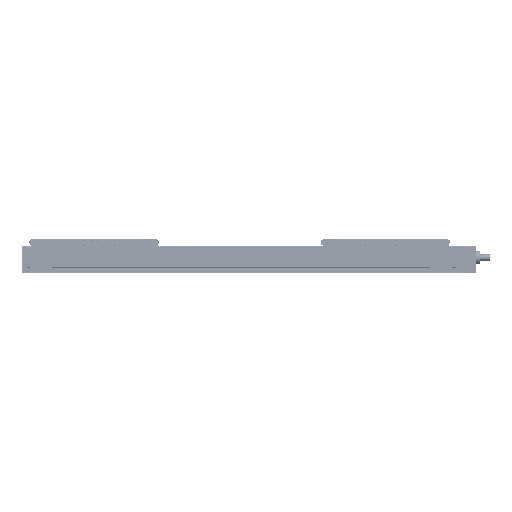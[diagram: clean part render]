
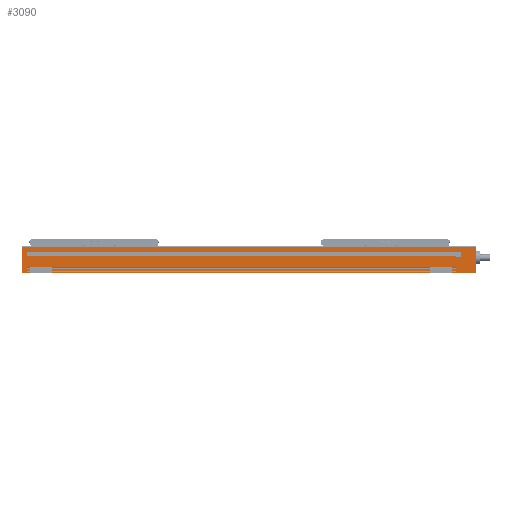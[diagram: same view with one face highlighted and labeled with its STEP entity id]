
A CAD part, left-side view. The second image highlights one B-rep face of the part: STEP entity #3090.
In plain terms, the highlighted planar face has unit normal (-1, 0, 0).
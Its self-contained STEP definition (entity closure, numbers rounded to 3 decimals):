
#880=CARTESIAN_POINT('',(1467.487,874.101,
527.8));
#890=DIRECTION('',(-1.,0.,0.));
#900=DIRECTION('',(0.,0.,1.));
#910=AXIS2_PLACEMENT_3D('',#880,#890,#900);
#920=PLANE('',#910);
#930=CARTESIAN_POINT('',(1467.487,1843.101,469.5));
#940=DIRECTION('',(0.,0.,1.));
#950=VECTOR('',#940,1.);
#960=LINE('',#930,#950);
#970=CARTESIAN_POINT('',(1467.487,1843.101,469.5));
#980=VERTEX_POINT('',#970);
#990=CARTESIAN_POINT('',(1467.487,1843.101,471.5));
#1000=VERTEX_POINT('',#990);
#1010=EDGE_CURVE('',#980,#1000,#960,.T.);
#1020=ORIENTED_EDGE('',*,*,#1010,.T.);
#1030=CARTESIAN_POINT('',(1467.487,1043.101,469.5));
#1040=DIRECTION('',(0.,-1.,0.));
#1050=VECTOR('',#1040,1.);
#1060=LINE('',#1030,#1050);
#1070=CARTESIAN_POINT('',(1467.487,474.101,469.5));
#1080=VERTEX_POINT('',#1070);
#1090=EDGE_CURVE('',#980,#1080,#1060,.T.);
#1100=ORIENTED_EDGE('',*,*,#1090,.F.);
#1110=CARTESIAN_POINT('',(1467.487,474.101,471.5));
#1120=DIRECTION('',(0.,0.,-1.));
#1130=VECTOR('',#1120,1.);
#1140=LINE('',#1110,#1130);
#1150=CARTESIAN_POINT('',(1467.487,474.101,471.5));
#1160=VERTEX_POINT('',#1150);
#1170=EDGE_CURVE('',#1160,#1080,#1140,.T.);
#1180=ORIENTED_EDGE('',*,*,#1170,.T.);
#1190=CARTESIAN_POINT('',(1467.487,1026.101,471.5));
#1200=DIRECTION('',(0.,1.,0.));
#1210=VECTOR('',#1200,1.);
#1220=LINE('',#1190,#1210);
#1230=EDGE_CURVE('',#1160,#1000,#1220,.T.);
#1240=ORIENTED_EDGE('',*,*,#1230,.F.);
#1250=EDGE_LOOP('',(#1240,#1180,#1100,#1020));
#1260=FACE_BOUND('',#1250,.T.);
#1270=CARTESIAN_POINT('',(1467.487,1843.101,
485.732));
#1280=DIRECTION('',(0.,0.,-1.));
#1290=VECTOR('',#1280,1.);
#1300=LINE('',#1270,#1290);
#1310=CARTESIAN_POINT('',(1467.487,1843.101,
485.732));
#1320=VERTEX_POINT('',#1310);
#1330=CARTESIAN_POINT('',(1467.487,1843.101,476.9));
#1340=VERTEX_POINT('',#1330);
#1350=EDGE_CURVE('',#1320,#1340,#1300,.T.);
#1360=ORIENTED_EDGE('',*,*,#1350,.F.);
#1370=CARTESIAN_POINT('',(1467.487,1043.101,476.9));
#1380=DIRECTION('',(0.,-1.,0.));
#1390=VECTOR('',#1380,1.);
#1400=LINE('',#1370,#1390);
#1410=CARTESIAN_POINT('',(1467.487,474.101,476.9));
#1420=VERTEX_POINT('',#1410);
#1430=EDGE_CURVE('',#1340,#1420,#1400,.T.);
#1440=ORIENTED_EDGE('',*,*,#1430,.F.);
#1450=CARTESIAN_POINT('',(1467.487,474.101,
485.732));
#1460=DIRECTION('',(0.,0.,-1.));
#1470=VECTOR('',#1460,1.);
#1480=LINE('',#1450,#1470);
#1490=CARTESIAN_POINT('',(1467.487,474.101,
485.732));
#1500=VERTEX_POINT('',#1490);
#1510=EDGE_CURVE('',#1500,#1420,#1480,.T.);
#1520=ORIENTED_EDGE('',*,*,#1510,.T.);
#1530=CARTESIAN_POINT('',(1467.487,1026.101,
485.732));
#1540=DIRECTION('',(0.,1.,0.));
#1550=VECTOR('',#1540,1.);
#1560=LINE('',#1530,#1550);
#1570=EDGE_CURVE('',#1500,#1320,#1560,.T.);
#1580=ORIENTED_EDGE('',*,*,#1570,.F.);
#1590=EDGE_LOOP('',(#1580,#1520,#1440,#1360));
#1600=FACE_BOUND('',#1590,.T.);
#1610=CARTESIAN_POINT('',(1467.487,474.101,
517.5));
#1620=DIRECTION('',(0.,0.,1.));
#1630=VECTOR('',#1620,1.);
#1640=LINE('',#1610,#1630);
#1650=CARTESIAN_POINT('',(1467.487,474.101,
517.5));
#1660=VERTEX_POINT('',#1650);
#1670=CARTESIAN_POINT('',(1467.487,474.101,
518.8));
#1680=VERTEX_POINT('',#1670);
#1690=EDGE_CURVE('',#1660,#1680,#1640,.T.);
#1700=ORIENTED_EDGE('',*,*,#1690,.T.);
#1710=CARTESIAN_POINT('',(1467.487,456.101,
517.5));
#1720=DIRECTION('',(0.,1.,0.));
#1730=VECTOR('',#1720,1.);
#1740=LINE('',#1710,#1730);
#1750=CARTESIAN_POINT('',(1467.487,456.101,
517.5));
#1760=VERTEX_POINT('',#1750);
#1770=EDGE_CURVE('',#1760,#1660,#1740,.T.);
#1780=ORIENTED_EDGE('',*,*,#1770,.T.);
#1790=CARTESIAN_POINT('',(1467.487,456.101,
531.5));
#1800=DIRECTION('',(0.,0.,-1.));
#1810=VECTOR('',#1800,1.);
#1820=LINE('',#1790,#1810);
#1830=CARTESIAN_POINT('',(1467.487,456.101,
531.5));
#1840=VERTEX_POINT('',#1830);
#1850=EDGE_CURVE('',#1840,#1760,#1820,.T.);
#1860=ORIENTED_EDGE('',*,*,#1850,.T.);
#1870=CARTESIAN_POINT('',(1467.487,456.101,
531.5));
#1880=DIRECTION('',(0.,1.,0.));
#1890=VECTOR('',#1880,1.);
#1900=LINE('',#1870,#1890);
#1910=CARTESIAN_POINT('',(1467.487,474.101,
531.5));
#1920=VERTEX_POINT('',#1910);
#1930=EDGE_CURVE('',#1840,#1920,#1900,.T.);
#1940=ORIENTED_EDGE('',*,*,#1930,.F.);
#1950=CARTESIAN_POINT('',(1467.487,474.101,
531.2));
#1960=DIRECTION('',(0.,0.,1.));
#1970=VECTOR('',#1960,1.);
#1980=LINE('',#1950,#1970);
#1990=CARTESIAN_POINT('',(1467.487,474.101,
531.2));
#2000=VERTEX_POINT('',#1990);
#2010=EDGE_CURVE('',#2000,#1920,#1980,.T.);
#2020=ORIENTED_EDGE('',*,*,#2010,.T.);
#2030=CARTESIAN_POINT('',(1467.487,1043.101,
531.2));
#2040=DIRECTION('',(0.,-1.,0.));
#2050=VECTOR('',#2040,1.);
#2060=LINE('',#2030,#2050);
#2070=CARTESIAN_POINT('',(1467.487,1843.101,
531.2));
#2080=VERTEX_POINT('',#2070);
#2090=EDGE_CURVE('',#2080,#2000,#2060,.T.);
#2100=ORIENTED_EDGE('',*,*,#2090,.T.);
#2110=CARTESIAN_POINT('',(1467.487,1843.101,
518.8));
#2120=DIRECTION('',(0.,0.,1.));
#2130=VECTOR('',#2120,1.);
#2140=LINE('',#2110,#2130);
#2150=CARTESIAN_POINT('',(1467.487,1843.101,
518.8));
#2160=VERTEX_POINT('',#2150);
#2170=EDGE_CURVE('',#2160,#2080,#2140,.T.);
#2180=ORIENTED_EDGE('',*,*,#2170,.T.);
#2190=CARTESIAN_POINT('',(1467.487,1026.101,
518.8));
#2200=DIRECTION('',(0.,1.,0.));
#2210=VECTOR('',#2200,1.);
#2220=LINE('',#2190,#2210);
#2230=EDGE_CURVE('',#1680,#2160,#2220,.T.);
#2240=ORIENTED_EDGE('',*,*,#2230,.T.);
#2250=EDGE_LOOP('',(#2240,#2180,#2100,#2020,#1940,#1860,#1780,#1700));
#2260=FACE_BOUND('',#2250,.T.);
#2270=CARTESIAN_POINT('',(1467.487,1858.101,
464.5));
#2280=DIRECTION('',(0.,0.,1.));
#2290=VECTOR('',#2280,1.);
#2300=LINE('',#2270,#2290);
#2310=CARTESIAN_POINT('',(1467.487,1858.101,
464.5));
#2320=VERTEX_POINT('',#2310);
#2330=CARTESIAN_POINT('',(1467.487,1858.101,
549.5));
#2340=VERTEX_POINT('',#2330);
#2350=EDGE_CURVE('',#2320,#2340,#2300,.T.);
#2360=ORIENTED_EDGE('',*,*,#2350,.F.);
#2370=CARTESIAN_POINT('',(1467.487,1858.101,
549.5));
#2380=DIRECTION('',(0.,-1.,0.));
#2390=VECTOR('',#2380,1.);
#2400=LINE('',#2370,#2390);
#2410=CARTESIAN_POINT('',(1467.487,1843.101,
549.5));
#2420=VERTEX_POINT('',#2410);
#2430=EDGE_CURVE('',#2340,#2420,#2400,.T.);
#2440=ORIENTED_EDGE('',*,*,#2430,.F.);
#2450=CARTESIAN_POINT('',(1467.487,1843.101,
549.5));
#2460=DIRECTION('',(0.,0.,-1.));
#2470=VECTOR('',#2460,1.);
#2480=LINE('',#2450,#2470);
#2490=CARTESIAN_POINT('',(1467.487,1843.101,547.));
#2500=VERTEX_POINT('',#2490);
#2510=EDGE_CURVE('',#2420,#2500,#2480,.T.);
#2520=ORIENTED_EDGE('',*,*,#2510,.F.);
#2530=CARTESIAN_POINT('',(1467.487,1043.101,547.));
#2540=DIRECTION('',(0.,-1.,0.));
#2550=VECTOR('',#2540,1.);
#2560=LINE('',#2530,#2550);
#2570=CARTESIAN_POINT('',(1467.487,474.101,547.));
#2580=VERTEX_POINT('',#2570);
#2590=EDGE_CURVE('',#2500,#2580,#2560,.T.);
#2600=ORIENTED_EDGE('',*,*,#2590,.F.);
#2610=CARTESIAN_POINT('',(1467.487,474.101,547.));
#2620=DIRECTION('',(0.,0.,1.));
#2630=VECTOR('',#2620,1.);
#2640=LINE('',#2610,#2630);
#2650=CARTESIAN_POINT('',(1467.487,474.101,
549.5));
#2660=VERTEX_POINT('',#2650);
#2670=EDGE_CURVE('',#2580,#2660,#2640,.T.);
#2680=ORIENTED_EDGE('',*,*,#2670,.F.);
#2690=CARTESIAN_POINT('',(1467.487,408.101,
549.5));
#2700=DIRECTION('',(0.,1.,0.));
#2710=VECTOR('',#2700,1.);
#2720=LINE('',#2690,#2710);
#2730=CARTESIAN_POINT('',(1467.487,408.101,
549.5));
#2740=VERTEX_POINT('',#2730);
#2750=EDGE_CURVE('',#2740,#2660,#2720,.T.);
#2760=ORIENTED_EDGE('',*,*,#2750,.T.);
#2770=CARTESIAN_POINT('',(1467.487,408.101,
464.8));
#2780=DIRECTION('',(0.,0.,1.));
#2790=VECTOR('',#2780,1.);
#2800=LINE('',#2770,#2790);
#2810=CARTESIAN_POINT('',(1467.487,408.101,
464.8));
#2820=VERTEX_POINT('',#2810);
#2830=EDGE_CURVE('',#2820,#2740,#2800,.T.);
#2840=ORIENTED_EDGE('',*,*,#2830,.T.);
#2850=CARTESIAN_POINT('',(1467.487,474.101,
464.8));
#2860=DIRECTION('',(0.,-1.,0.));
#2870=VECTOR('',#2860,1.);
#2880=LINE('',#2850,#2870);
#2890=CARTESIAN_POINT('',(1467.487,474.101,
464.8));
#2900=VERTEX_POINT('',#2890);
#2910=EDGE_CURVE('',#2900,#2820,#2880,.T.);
#2920=ORIENTED_EDGE('',*,*,#2910,.T.);
#2930=CARTESIAN_POINT('',(1467.487,474.101,
464.5));
#2940=DIRECTION('',(0.,0.,1.));
#2950=VECTOR('',#2940,1.);
#2960=LINE('',#2930,#2950);
#2970=CARTESIAN_POINT('',(1467.487,474.101,
464.5));
#2980=VERTEX_POINT('',#2970);
#2990=EDGE_CURVE('',#2980,#2900,#2960,.T.);
#3000=ORIENTED_EDGE('',*,*,#2990,.T.);
#3010=CARTESIAN_POINT('',(1467.487,1026.101,
464.5));
#3020=DIRECTION('',(0.,1.,0.));
#3030=VECTOR('',#3020,1.);
#3040=LINE('',#3010,#3030);
#3050=EDGE_CURVE('',#2980,#2320,#3040,.T.);
#3060=ORIENTED_EDGE('',*,*,#3050,.F.);
#3070=EDGE_LOOP('',(#3060,#3000,#2920,#2840,#2760,#2680,#2600,#2520,
#2440,#2360));
#3080=FACE_OUTER_BOUND('',#3070,.T.);
#3090=ADVANCED_FACE('',(#1260,#1600,#2260,#3080),#920,.T.);
